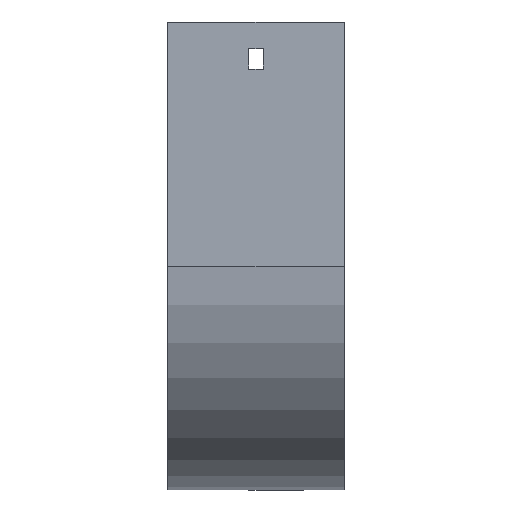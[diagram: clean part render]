
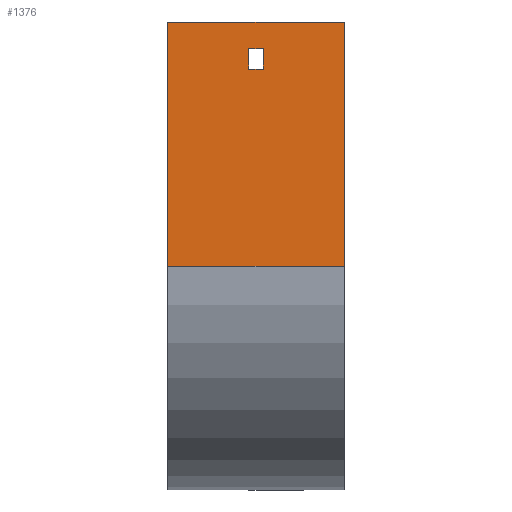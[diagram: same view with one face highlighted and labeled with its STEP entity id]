
A CAD part, front view. The second image highlights one B-rep face of the part: STEP entity #1376.
In plain terms, the highlighted planar face has unit normal (0, -1, 0).
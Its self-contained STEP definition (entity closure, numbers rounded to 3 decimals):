
#22 = FACE_OUTER_BOUND ( 'NONE', #525, .T. ) ;
#33 = DIRECTION ( 'NONE',  ( -1., 0., 0. ) ) ;
#38 = EDGE_CURVE ( 'NONE', #1673, #851, #984, .T. ) ;
#50 = VERTEX_POINT ( 'NONE', #1587 ) ;
#53 = EDGE_CURVE ( 'NONE', #111, #1650, #1420, .T. ) ;
#103 = DIRECTION ( 'NONE',  ( 0., 0., 1. ) ) ;
#111 = VERTEX_POINT ( 'NONE', #581 ) ;
#114 = EDGE_CURVE ( 'NONE', #1479, #1153, #1919, .T. ) ;
#131 = VECTOR ( 'NONE', #1020, 1000. ) ;
#153 = VECTOR ( 'NONE', #1880, 1000. ) ;
#178 = VECTOR ( 'NONE', #33, 1000. ) ;
#184 = CARTESIAN_POINT ( 'NONE',  ( 39.5, -79., -109. ) ) ;
#211 = VECTOR ( 'NONE', #1941, 1000. ) ;
#218 = LINE ( 'NONE', #610, #1314 ) ;
#231 = ORIENTED_EDGE ( 'NONE', *, *, #1599, .T. ) ;
#415 = CARTESIAN_POINT ( 'NONE',  ( 39.5, -79., 0. ) ) ;
#466 = VERTEX_POINT ( 'NONE', #1196 ) ;
#468 = DIRECTION ( 'NONE',  ( 0., 0., -1. ) ) ;
#525 = EDGE_LOOP ( 'NONE', ( #1024, #1652, #1757, #701 ) ) ;
#581 = CARTESIAN_POINT ( 'NONE',  ( -3.25, -79., -12. ) ) ;
#591 = EDGE_CURVE ( 'NONE', #466, #111, #598, .T. ) ;
#598 = LINE ( 'NONE', #1458, #1623 ) ;
#610 = CARTESIAN_POINT ( 'NONE',  ( 39.5, -79., -109. ) ) ;
#701 = ORIENTED_EDGE ( 'NONE', *, *, #895, .T. ) ;
#750 = EDGE_CURVE ( 'NONE', #1153, #851, #218, .T. ) ;
#793 = ORIENTED_EDGE ( 'NONE', *, *, #53, .T. ) ;
#827 = CARTESIAN_POINT ( 'NONE',  ( -39.5, -79., -109. ) ) ;
#846 = EDGE_LOOP ( 'NONE', ( #1555, #1360, #793, #231 ) ) ;
#851 = VERTEX_POINT ( 'NONE', #1674 ) ;
#863 = LINE ( 'NONE', #1768, #131 ) ;
#895 = EDGE_CURVE ( 'NONE', #1479, #1673, #1563, .T. ) ;
#917 = VECTOR ( 'NONE', #1054, 1000. ) ;
#984 = LINE ( 'NONE', #827, #153 ) ;
#1020 = DIRECTION ( 'NONE',  ( -1., 0., 0. ) ) ;
#1024 = ORIENTED_EDGE ( 'NONE', *, *, #38, .T. ) ;
#1054 = DIRECTION ( 'NONE',  ( 1., 0., 0. ) ) ;
#1105 = DIRECTION ( 'NONE',  ( 0., 1., 0. ) ) ;
#1153 = VERTEX_POINT ( 'NONE', #1183 ) ;
#1183 = CARTESIAN_POINT ( 'NONE',  ( 39.5, -79., -109. ) ) ;
#1196 = CARTESIAN_POINT ( 'NONE',  ( -3.25, -79., -21. ) ) ;
#1200 = CARTESIAN_POINT ( 'NONE',  ( -3.25, -79., -12. ) ) ;
#1208 = VECTOR ( 'NONE', #468, 1000. ) ;
#1252 = DIRECTION ( 'NONE',  ( 0., 0., 1. ) ) ;
#1314 = VECTOR ( 'NONE', #1810, 1000. ) ;
#1331 = AXIS2_PLACEMENT_3D ( 'NONE', #184, #1105, #1252 ) ;
#1360 = ORIENTED_EDGE ( 'NONE', *, *, #591, .T. ) ;
#1376 = ADVANCED_FACE ( 'NONE', ( #1881, #22 ), #1534, .F. ) ;
#1415 = CARTESIAN_POINT ( 'NONE',  ( 39.5, -79., 0. ) ) ;
#1418 = CARTESIAN_POINT ( 'NONE',  ( 3.25, -79., -12. ) ) ;
#1420 = LINE ( 'NONE', #1200, #917 ) ;
#1458 = CARTESIAN_POINT ( 'NONE',  ( -3.25, -79., -21. ) ) ;
#1479 = VERTEX_POINT ( 'NONE', #415 ) ;
#1534 = PLANE ( 'NONE',  #1331 ) ;
#1555 = ORIENTED_EDGE ( 'NONE', *, *, #1862, .T. ) ;
#1563 = LINE ( 'NONE', #1415, #178 ) ;
#1587 = CARTESIAN_POINT ( 'NONE',  ( 3.25, -79., -21. ) ) ;
#1599 = EDGE_CURVE ( 'NONE', #1650, #50, #1833, .T. ) ;
#1618 = CARTESIAN_POINT ( 'NONE',  ( 39.5, -79., -109. ) ) ;
#1623 = VECTOR ( 'NONE', #103, 1000. ) ;
#1650 = VERTEX_POINT ( 'NONE', #1418 ) ;
#1652 = ORIENTED_EDGE ( 'NONE', *, *, #750, .F. ) ;
#1673 = VERTEX_POINT ( 'NONE', #1709 ) ;
#1674 = CARTESIAN_POINT ( 'NONE',  ( -39.5, -79., -109. ) ) ;
#1709 = CARTESIAN_POINT ( 'NONE',  ( -39.5, -79., 0. ) ) ;
#1757 = ORIENTED_EDGE ( 'NONE', *, *, #114, .F. ) ;
#1768 = CARTESIAN_POINT ( 'NONE',  ( -3.25, -79., -21. ) ) ;
#1810 = DIRECTION ( 'NONE',  ( -1., 0., 0. ) ) ;
#1815 = CARTESIAN_POINT ( 'NONE',  ( 3.25, -79., -21. ) ) ;
#1833 = LINE ( 'NONE', #1815, #1208 ) ;
#1862 = EDGE_CURVE ( 'NONE', #50, #466, #863, .T. ) ;
#1880 = DIRECTION ( 'NONE',  ( 0., 0., -1. ) ) ;
#1881 = FACE_BOUND ( 'NONE', #846, .T. ) ;
#1919 = LINE ( 'NONE', #1618, #211 ) ;
#1941 = DIRECTION ( 'NONE',  ( 0., 0., -1. ) ) ;
